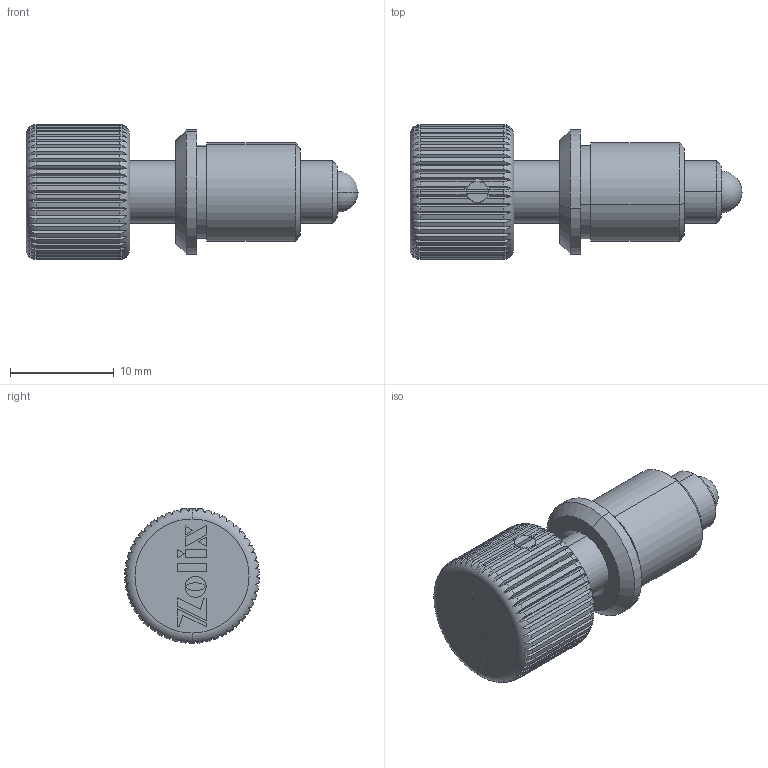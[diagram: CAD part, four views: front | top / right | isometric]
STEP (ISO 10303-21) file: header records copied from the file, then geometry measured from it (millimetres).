
FILE_DESCRIPTION (( 'STEP AP203' ), '1' );
FILE_NAME ('ACFS06-1A.step', '2019-05-09T08:53:47', ( '' ), ( '' ), 'SwSTEP 2.0', 'SolidWorks 2016', '' );
FILE_SCHEMA (( 'CONFIG_CONTROL_DESIGN' ));
Length unit declared in the file: millimetre
Products named in the file (1): ACFS06-1A
Bounding box: 32 x 13 x 13 mm (x, y, z)
Surface area: 1871.5 mm2 (no closed solid volume)
Topology: 0 solids, 5 shells, 244 faces, 909 edges, 661 vertices
Faces by surface type: plane 160, cylinder 66, cone 12, torus 4, sphere 2
Entity records: 10262 total; most frequent: CARTESIAN_POINT 2917, ORIENTED_EDGE 1538, DIRECTION 1330, EDGE_CURVE 904, VERTEX_POINT 658, LINE 524, VECTOR 524, AXIS2_PLACEMENT_3D 403
